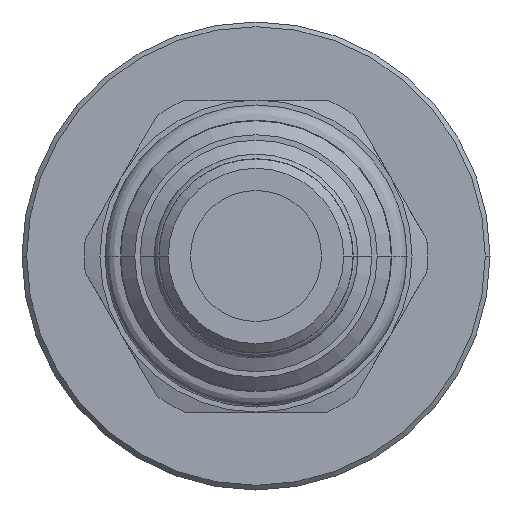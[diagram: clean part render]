
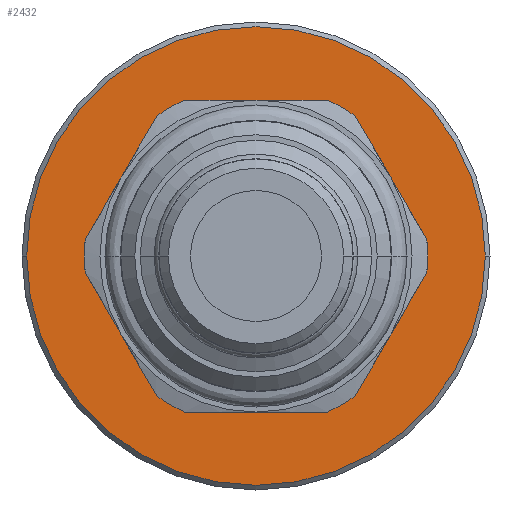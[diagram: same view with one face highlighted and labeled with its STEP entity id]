
A CAD part, front view. The second image highlights one B-rep face of the part: STEP entity #2432.
In plain terms, the highlighted planar face has unit normal (0, -1, 0).
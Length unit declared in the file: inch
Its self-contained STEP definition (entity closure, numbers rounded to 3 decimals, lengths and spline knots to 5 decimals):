
#400=CARTESIAN_POINT('',(0.,1.32948,0.));
#401=DIRECTION('',(0.,-1.,0.));
#402=DIRECTION('',(-1.,0.,0.));
#403=AXIS2_PLACEMENT_3D('',#400,#401,#402);
#418=CARTESIAN_POINT('',(0.,1.32948,0.));
#419=DIRECTION('',(0.,-1.,0.));
#420=DIRECTION('',(-1.,0.,0.));
#421=AXIS2_PLACEMENT_3D('',#418,#419,#420);
#423=CARTESIAN_POINT('',(0.,1.32948,0.));
#424=DIRECTION('',(0.,-1.,0.));
#425=DIRECTION('',(1.,0.,0.));
#426=AXIS2_PLACEMENT_3D('',#423,#424,#425);
#428=CARTESIAN_POINT('',(0.,1.32948,0.));
#429=DIRECTION('',(0.,-1.,0.));
#430=DIRECTION('',(1.,0.,0.));
#431=AXIS2_PLACEMENT_3D('',#428,#429,#430);
#1819=CARTESIAN_POINT('',(-0.375,1.32948,0.));
#1820=CARTESIAN_POINT('',(0.375,1.32948,0.));
#1821=VERTEX_POINT('',#1819);
#1822=VERTEX_POINT('',#1820);
#1823=CARTESIAN_POINT('',(0.735,1.32948,0.));
#1824=CARTESIAN_POINT('',(-0.735,1.32948,0.));
#1825=VERTEX_POINT('',#1823);
#1826=VERTEX_POINT('',#1824);
#2416=CARTESIAN_POINT('',(0.,1.32948,0.));
#2417=DIRECTION('',(0.,-1.,0.));
#2418=DIRECTION('',(-1.,0.,0.));
#2419=AXIS2_PLACEMENT_3D('',#2416,#2417,#2418);
#2420=PLANE('',#2419);
#2421=ORIENTED_EDGE('',*,*,#2406,.F.);
#2423=ORIENTED_EDGE('',*,*,#2422,.F.);
#2424=EDGE_LOOP('',(#2421,#2423));
#2425=FACE_OUTER_BOUND('',#2424,.F.);
#2427=ORIENTED_EDGE('',*,*,#2426,.T.);
#2429=ORIENTED_EDGE('',*,*,#2428,.T.);
#2430=EDGE_LOOP('',(#2427,#2429));
#2431=FACE_BOUND('',#2430,.F.);
#2432=ADVANCED_FACE('',(#2425,#2431),#2420,.T.);
#404=CIRCLE('',#403,0.735);
#422=CIRCLE('',#421,0.375);
#427=CIRCLE('',#426,0.375);
#432=CIRCLE('',#431,0.735);
#2406=EDGE_CURVE('',#1826,#1825,#404,.T.);
#2422=EDGE_CURVE('',#1825,#1826,#432,.T.);
#2426=EDGE_CURVE('',#1821,#1822,#422,.T.);
#2428=EDGE_CURVE('',#1822,#1821,#427,.T.);
